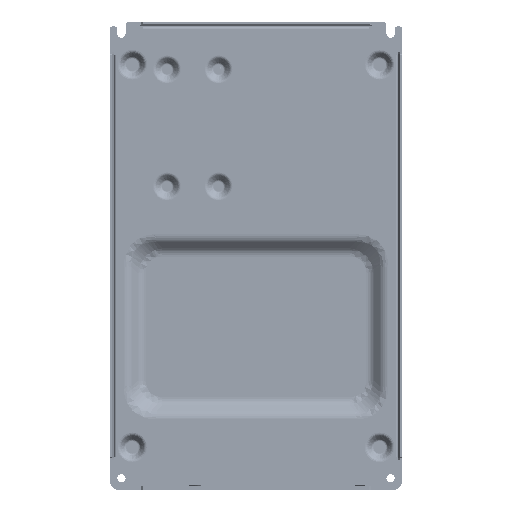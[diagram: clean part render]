
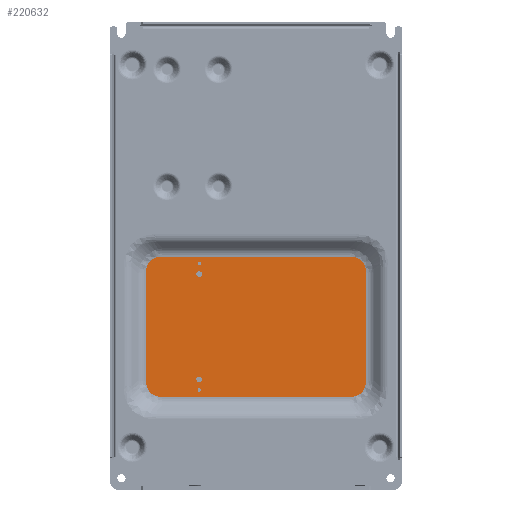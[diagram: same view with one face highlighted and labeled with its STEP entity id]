
A CAD part, front view. The second image highlights one B-rep face of the part: STEP entity #220632.
In plain terms, the highlighted planar face has unit normal (0, -1, 0).
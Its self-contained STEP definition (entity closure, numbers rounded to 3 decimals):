
#213018=CARTESIAN_POINT('',(0.442,10.8,79.916));
#213019=CARTESIAN_POINT('',(0.442,10.8,80.944));
#213020=CARTESIAN_POINT('',(0.593,10.8,83.004));
#213021=CARTESIAN_POINT('',(1.333,10.8,85.867));
#213022=CARTESIAN_POINT('',(2.569,10.8,88.35));
#213023=CARTESIAN_POINT('',(4.203,10.8,90.371));
#213024=CARTESIAN_POINT('',(6.241,10.8,91.989));
#213025=CARTESIAN_POINT('',(8.746,10.8,93.209));
#213026=CARTESIAN_POINT('',(11.582,10.8,93.917));
#213027=CARTESIAN_POINT('',(13.602,10.8,94.058));
#213028=CARTESIAN_POINT('',(14.584,10.8,94.058));
#213033=CARTESIAN_POINT('',(106.416,10.8,94.058));
#213034=CARTESIAN_POINT('',(107.444,10.8,94.058));
#213035=CARTESIAN_POINT('',(109.504,10.8,93.907));
#213036=CARTESIAN_POINT('',(112.367,10.8,93.167));
#213037=CARTESIAN_POINT('',(114.85,10.8,91.931));
#213038=CARTESIAN_POINT('',(116.871,10.8,90.297));
#213039=CARTESIAN_POINT('',(118.489,10.8,88.259));
#213040=CARTESIAN_POINT('',(119.709,10.8,85.754));
#213041=CARTESIAN_POINT('',(120.417,10.8,82.918));
#213042=CARTESIAN_POINT('',(120.558,10.8,80.898));
#213043=CARTESIAN_POINT('',(120.558,10.8,79.916));
#213048=CARTESIAN_POINT('',(120.558,10.8,-79.916));
#213049=CARTESIAN_POINT('',(120.558,10.8,-80.944));
#213050=CARTESIAN_POINT('',(120.407,10.8,-83.004));
#213051=CARTESIAN_POINT('',(119.667,10.8,-85.867));
#213052=CARTESIAN_POINT('',(118.431,10.8,-88.35));
#213053=CARTESIAN_POINT('',(116.797,10.8,-90.371));
#213054=CARTESIAN_POINT('',(114.759,10.8,-91.989));
#213055=CARTESIAN_POINT('',(112.254,10.8,-93.209));
#213056=CARTESIAN_POINT('',(109.418,10.8,-93.917));
#213057=CARTESIAN_POINT('',(107.398,10.8,-94.058));
#213058=CARTESIAN_POINT('',(106.416,10.8,-94.058));
#213063=CARTESIAN_POINT('',(14.584,10.8,-94.058));
#213064=CARTESIAN_POINT('',(13.556,10.8,-94.058));
#213065=CARTESIAN_POINT('',(11.496,10.8,-93.907));
#213066=CARTESIAN_POINT('',(8.633,10.8,-93.167));
#213067=CARTESIAN_POINT('',(6.15,10.8,-91.931));
#213068=CARTESIAN_POINT('',(4.129,10.8,-90.297));
#213069=CARTESIAN_POINT('',(2.511,10.8,-88.259));
#213070=CARTESIAN_POINT('',(1.291,10.8,-85.754));
#213071=CARTESIAN_POINT('',(0.583,10.8,-82.918));
#213072=CARTESIAN_POINT('',(0.442,10.8,-80.898));
#213073=CARTESIAN_POINT('',(0.442,10.8,-79.916));
#213078=CARTESIAN_POINT('',(105.5,10.8,-48.5));
#213079=DIRECTION('',(0.,-1.,0.));
#213080=DIRECTION('',(0.,0.,-1.));
#213081=AXIS2_PLACEMENT_3D('',#213078,#213079,#213080);
#213086=CARTESIAN_POINT('',(105.5,10.8,-48.5));
#213087=DIRECTION('',(0.,-1.,0.));
#213088=DIRECTION('',(0.,0.,1.));
#213089=AXIS2_PLACEMENT_3D('',#213086,#213087,#213088);
#213094=CARTESIAN_POINT('',(15.5,10.8,-48.5));
#213095=DIRECTION('',(0.,-1.,0.));
#213096=DIRECTION('',(0.,0.,-1.));
#213097=AXIS2_PLACEMENT_3D('',#213094,#213095,#213096);
#213102=CARTESIAN_POINT('',(15.5,10.8,-48.5));
#213103=DIRECTION('',(0.,-1.,0.));
#213104=DIRECTION('',(0.,0.,1.));
#213105=AXIS2_PLACEMENT_3D('',#213102,#213103,#213104);
#213110=CARTESIAN_POINT('',(114.5,10.8,-48.5));
#213111=DIRECTION('',(0.,-1.,0.));
#213112=DIRECTION('',(0.,0.,1.));
#213113=AXIS2_PLACEMENT_3D('',#213110,#213111,#213112);
#213118=CARTESIAN_POINT('',(114.5,10.8,-48.5));
#213119=DIRECTION('',(0.,-1.,0.));
#213120=DIRECTION('',(0.,0.,-1.));
#213121=AXIS2_PLACEMENT_3D('',#213118,#213119,#213120);
#213126=CARTESIAN_POINT('',(6.5,10.8,-48.5));
#213127=DIRECTION('',(0.,-1.,0.));
#213128=DIRECTION('',(0.,0.,1.));
#213129=AXIS2_PLACEMENT_3D('',#213126,#213127,#213128);
#213134=CARTESIAN_POINT('',(6.5,10.8,-48.5));
#213135=DIRECTION('',(0.,-1.,0.));
#213136=DIRECTION('',(0.,0.,-1.));
#213137=AXIS2_PLACEMENT_3D('',#213134,#213135,#213136);
#213178=DIRECTION('',(0.,0.,-1.));
#213179=VECTOR('',#213178,159.831);
#213180=CARTESIAN_POINT('',(0.442,10.8,79.916));
#213181=LINE('',#213180,#213179);
#213236=DIRECTION('',(-1.,0.,0.));
#213237=VECTOR('',#213236,91.831);
#213238=CARTESIAN_POINT('',(106.416,10.8,94.058));
#213239=LINE('',#213238,#213237);
#213316=DIRECTION('',(0.,0.,1.));
#213317=VECTOR('',#213316,159.831);
#213318=CARTESIAN_POINT('',(120.558,10.8,-79.916));
#213319=LINE('',#213318,#213317);
#213396=DIRECTION('',(1.,0.,0.));
#213397=VECTOR('',#213396,91.831);
#213398=CARTESIAN_POINT('',(14.584,10.8,-94.058));
#213399=LINE('',#213398,#213397);
#216585=VERTEX_POINT('',#213063);
#216586=VERTEX_POINT('',#213073);
#216587=VERTEX_POINT('',#213018);
#216588=VERTEX_POINT('',#213028);
#216589=CARTESIAN_POINT('',(106.416,10.8,94.058));
#216590=VERTEX_POINT('',#216589);
#216591=VERTEX_POINT('',#213043);
#216592=CARTESIAN_POINT('',(120.558,10.8,-79.916));
#216593=VERTEX_POINT('',#216592);
#216594=VERTEX_POINT('',#213058);
#216595=CARTESIAN_POINT('',(105.5,10.8,-51.));
#216596=CARTESIAN_POINT('',(105.5,10.8,-46.));
#216597=VERTEX_POINT('',#216595);
#216598=VERTEX_POINT('',#216596);
#216599=CARTESIAN_POINT('',(15.5,10.8,-51.));
#216600=CARTESIAN_POINT('',(15.5,10.8,-46.));
#216601=VERTEX_POINT('',#216599);
#216602=VERTEX_POINT('',#216600);
#216603=CARTESIAN_POINT('',(114.5,10.8,-47.));
#216604=CARTESIAN_POINT('',(114.5,10.8,-50.));
#216605=VERTEX_POINT('',#216603);
#216606=VERTEX_POINT('',#216604);
#216607=CARTESIAN_POINT('',(6.5,10.8,-47.));
#216608=CARTESIAN_POINT('',(6.5,10.8,-50.));
#216609=VERTEX_POINT('',#216607);
#216610=VERTEX_POINT('',#216608);
#220586=CARTESIAN_POINT('',(60.5,10.8,0.));
#220587=DIRECTION('',(0.,1.,0.));
#220588=DIRECTION('',(0.,0.,-1.));
#220589=AXIS2_PLACEMENT_3D('',#220586,#220587,#220588);
#220590=PLANE('',#220589);
#220592=ORIENTED_EDGE('',*,*,#220591,.T.);
#220594=ORIENTED_EDGE('',*,*,#220593,.F.);
#220596=ORIENTED_EDGE('',*,*,#220595,.T.);
#220598=ORIENTED_EDGE('',*,*,#220597,.F.);
#220600=ORIENTED_EDGE('',*,*,#220599,.T.);
#220602=ORIENTED_EDGE('',*,*,#220601,.F.);
#220603=ORIENTED_EDGE('',*,*,#220576,.T.);
#220605=ORIENTED_EDGE('',*,*,#220604,.F.);
#220606=EDGE_LOOP('',(#220592,#220594,#220596,#220598,#220600,#220602,#220603,
#220605));
#220607=FACE_OUTER_BOUND('',#220606,.F.);
#220609=ORIENTED_EDGE('',*,*,#220608,.T.);
#220611=ORIENTED_EDGE('',*,*,#220610,.T.);
#220612=EDGE_LOOP('',(#220609,#220611));
#220613=FACE_BOUND('',#220612,.F.);
#220615=ORIENTED_EDGE('',*,*,#220614,.T.);
#220617=ORIENTED_EDGE('',*,*,#220616,.T.);
#220618=EDGE_LOOP('',(#220615,#220617));
#220619=FACE_BOUND('',#220618,.F.);
#220621=ORIENTED_EDGE('',*,*,#220620,.T.);
#220623=ORIENTED_EDGE('',*,*,#220622,.T.);
#220624=EDGE_LOOP('',(#220621,#220623));
#220625=FACE_BOUND('',#220624,.F.);
#220627=ORIENTED_EDGE('',*,*,#220626,.T.);
#220629=ORIENTED_EDGE('',*,*,#220628,.T.);
#220630=EDGE_LOOP('',(#220627,#220629));
#220631=FACE_BOUND('',#220630,.F.);
#213029=B_SPLINE_CURVE_WITH_KNOTS('',3,(#213018,#213019,#213020,#213021,#213022,
#213023,#213024,#213025,#213026,#213027,#213028),.UNSPECIFIED.,.F.,.F.,(4,1,1,1,
1,1,1,1,4),(0.,0.132,0.267,0.388,
0.502,0.616,0.738,0.874,1.),
.UNSPECIFIED.);
#213044=B_SPLINE_CURVE_WITH_KNOTS('',3,(#213033,#213034,#213035,#213036,#213037,
#213038,#213039,#213040,#213041,#213042,#213043),.UNSPECIFIED.,.F.,.F.,(4,1,1,1,
1,1,1,1,4),(0.,0.132,0.267,0.388,
0.502,0.616,0.738,0.874,1.),
.UNSPECIFIED.);
#213059=B_SPLINE_CURVE_WITH_KNOTS('',3,(#213048,#213049,#213050,#213051,#213052,
#213053,#213054,#213055,#213056,#213057,#213058),.UNSPECIFIED.,.F.,.F.,(4,1,1,1,
1,1,1,1,4),(0.,0.132,0.267,0.388,
0.502,0.616,0.738,0.874,1.),
.UNSPECIFIED.);
#213074=B_SPLINE_CURVE_WITH_KNOTS('',3,(#213063,#213064,#213065,#213066,#213067,
#213068,#213069,#213070,#213071,#213072,#213073),.UNSPECIFIED.,.F.,.F.,(4,1,1,1,
1,1,1,1,4),(0.,0.132,0.267,0.388,
0.502,0.616,0.738,0.874,1.),
.UNSPECIFIED.);
#213082=CIRCLE('',#213081,2.5);
#213090=CIRCLE('',#213089,2.5);
#213098=CIRCLE('',#213097,2.5);
#213106=CIRCLE('',#213105,2.5);
#213114=CIRCLE('',#213113,1.5);
#213122=CIRCLE('',#213121,1.5);
#213130=CIRCLE('',#213129,1.5);
#213138=CIRCLE('',#213137,1.5);
#220576=EDGE_CURVE('',#216585,#216586,#213074,.T.);
#220591=EDGE_CURVE('',#216587,#216588,#213029,.T.);
#220593=EDGE_CURVE('',#216590,#216588,#213239,.T.);
#220595=EDGE_CURVE('',#216590,#216591,#213044,.T.);
#220597=EDGE_CURVE('',#216593,#216591,#213319,.T.);
#220599=EDGE_CURVE('',#216593,#216594,#213059,.T.);
#220601=EDGE_CURVE('',#216585,#216594,#213399,.T.);
#220604=EDGE_CURVE('',#216587,#216586,#213181,.T.);
#220608=EDGE_CURVE('',#216597,#216598,#213082,.T.);
#220610=EDGE_CURVE('',#216598,#216597,#213090,.T.);
#220614=EDGE_CURVE('',#216601,#216602,#213098,.T.);
#220616=EDGE_CURVE('',#216602,#216601,#213106,.T.);
#220620=EDGE_CURVE('',#216605,#216606,#213114,.T.);
#220622=EDGE_CURVE('',#216606,#216605,#213122,.T.);
#220626=EDGE_CURVE('',#216609,#216610,#213130,.T.);
#220628=EDGE_CURVE('',#216610,#216609,#213138,.T.);
#220632=ADVANCED_FACE('',(#220607,#220613,#220619,#220625,#220631),#220590,.F.);
